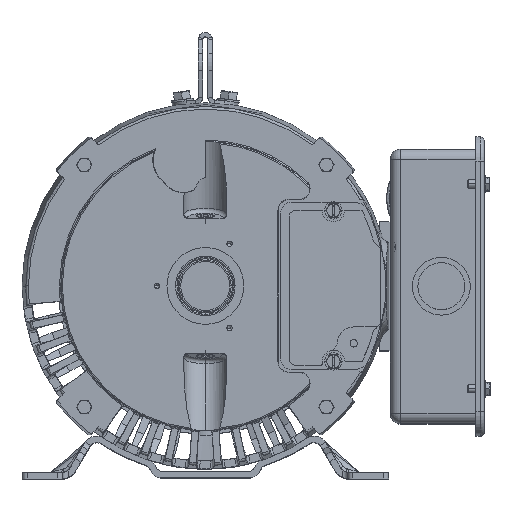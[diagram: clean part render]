
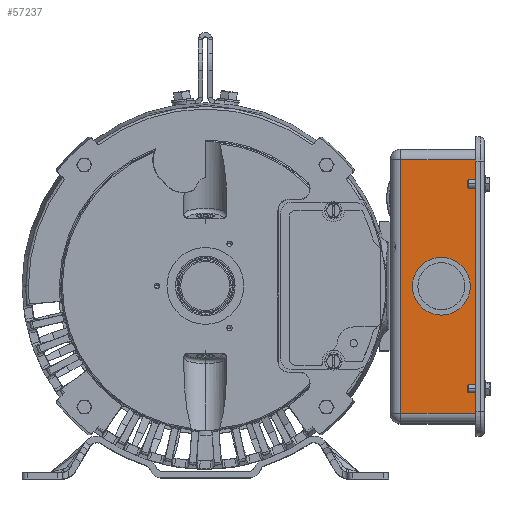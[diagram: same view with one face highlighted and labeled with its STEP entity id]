
A CAD part, top view. The second image highlights one B-rep face of the part: STEP entity #57237.
In plain terms, the highlighted planar face has unit normal (0, 0, 1).
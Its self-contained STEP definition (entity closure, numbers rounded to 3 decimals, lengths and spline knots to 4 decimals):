
#8108 = FACE_OUTER_BOUND ( 'NONE', #140973, .T. ) ;
#12394 = CARTESIAN_POINT ( 'NONE',  ( 5.4713, 0.67, 17.17 ) ) ;
#14812 = EDGE_CURVE ( 'NONE', #98481, #135378, #61395, .T. ) ;
#16918 = VECTOR ( 'NONE', #124052, 39.3701 ) ;
#21375 = VERTEX_POINT ( 'NONE', #115967 ) ;
#23834 = LINE ( 'NONE', #41354, #139410 ) ;
#24102 = ORIENTED_EDGE ( 'NONE', *, *, #55986, .T. ) ;
#24421 = ORIENTED_EDGE ( 'NONE', *, *, #50794, .F. ) ;
#27276 = LINE ( 'NONE', #62936, #110659 ) ;
#28077 = CARTESIAN_POINT ( 'NONE',  ( 6.2815, 2.93, 17.17 ) ) ;
#28255 = DIRECTION ( 'NONE',  ( 0., -1., 0. ) ) ;
#28546 = CARTESIAN_POINT ( 'NONE',  ( 5.4713, 0., 17.17 ) ) ;
#29481 = DIRECTION ( 'NONE',  ( 0., 0., 1. ) ) ;
#36015 = ORIENTED_EDGE ( 'NONE', *, *, #138537, .T. ) ;
#39279 = CARTESIAN_POINT ( 'NONE',  ( 5.4713, 0., 17.17 ) ) ;
#39383 = AXIS2_PLACEMENT_3D ( 'NONE', #39279, #115206, #50257 ) ;
#41197 = DIRECTION ( 'NONE',  ( 0., 1., 0. ) ) ;
#41354 = CARTESIAN_POINT ( 'NONE',  ( 4.5311, -2.94, 17.17 ) ) ;
#49551 = CIRCLE ( 'NONE', #39383, 0.67 ) ;
#50257 = DIRECTION ( 'NONE',  ( 0., -1., 0. ) ) ;
#50794 = EDGE_CURVE ( 'NONE', #135378, #98481, #49551, .T. ) ;
#51672 = DIRECTION ( 'NONE',  ( 0., -1., 0. ) ) ;
#55986 = EDGE_CURVE ( 'NONE', #100178, #133189, #23834, .T. ) ;
#57237 = ADVANCED_FACE ( 'NONE', ( #95129, #8108 ), #136548, .T. ) ;
#61386 = ORIENTED_EDGE ( 'NONE', *, *, #106994, .T. ) ;
#61395 = CIRCLE ( 'NONE', #84058, 0.67 ) ;
#62936 = CARTESIAN_POINT ( 'NONE',  ( 4.5311, 2.93, 17.17 ) ) ;
#78143 = VERTEX_POINT ( 'NONE', #28077 ) ;
#84058 = AXIS2_PLACEMENT_3D ( 'NONE', #28546, #29481, #28255 ) ;
#84404 = CARTESIAN_POINT ( 'NONE',  ( 6.2815, 2.93, 17.17 ) ) ;
#92897 = EDGE_CURVE ( 'NONE', #21375, #100178, #100423, .T. ) ;
#94913 = CARTESIAN_POINT ( 'NONE',  ( 6.2815, -2.94, 17.17 ) ) ;
#95129 = FACE_BOUND ( 'NONE', #118762, .T. ) ;
#95542 = AXIS2_PLACEMENT_3D ( 'NONE', #105709, #116658, #51672 ) ;
#98481 = VERTEX_POINT ( 'NONE', #12394 ) ;
#99534 = ORIENTED_EDGE ( 'NONE', *, *, #14812, .F. ) ;
#100178 = VERTEX_POINT ( 'NONE', #108962 ) ;
#100423 = LINE ( 'NONE', #103689, #16918 ) ;
#100893 = ORIENTED_EDGE ( 'NONE', *, *, #92897, .T. ) ;
#103513 = VECTOR ( 'NONE', #41197, 39.3701 ) ;
#103689 = CARTESIAN_POINT ( 'NONE',  ( 4.5311, -2.94, 17.17 ) ) ;
#105351 = CARTESIAN_POINT ( 'NONE',  ( 5.4713, -0.67, 17.17 ) ) ;
#105709 = CARTESIAN_POINT ( 'NONE',  ( 4.5311, -2.94, 17.17 ) ) ;
#106994 = EDGE_CURVE ( 'NONE', #78143, #21375, #27276, .T. ) ;
#108962 = CARTESIAN_POINT ( 'NONE',  ( 4.5311, -2.94, 17.17 ) ) ;
#110659 = VECTOR ( 'NONE', #138714, 39.3701 ) ;
#115206 = DIRECTION ( 'NONE',  ( 0., 0., 1. ) ) ;
#115967 = CARTESIAN_POINT ( 'NONE',  ( 4.5311, 2.93, 17.17 ) ) ;
#116658 = DIRECTION ( 'NONE',  ( 0., 0., 1. ) ) ;
#117288 = DIRECTION ( 'NONE',  ( 1., 0., 0. ) ) ;
#118762 = EDGE_LOOP ( 'NONE', ( #24421, #99534 ) ) ;
#124052 = DIRECTION ( 'NONE',  ( 0., -1., 0. ) ) ;
#132305 = LINE ( 'NONE', #84404, #103513 ) ;
#133189 = VERTEX_POINT ( 'NONE', #94913 ) ;
#135378 = VERTEX_POINT ( 'NONE', #105351 ) ;
#136548 = PLANE ( 'NONE',  #95542 ) ;
#138537 = EDGE_CURVE ( 'NONE', #133189, #78143, #132305, .T. ) ;
#138714 = DIRECTION ( 'NONE',  ( -1., 0., 0. ) ) ;
#139410 = VECTOR ( 'NONE', #117288, 39.3701 ) ;
#140973 = EDGE_LOOP ( 'NONE', ( #24102, #36015, #61386, #100893 ) ) ;
